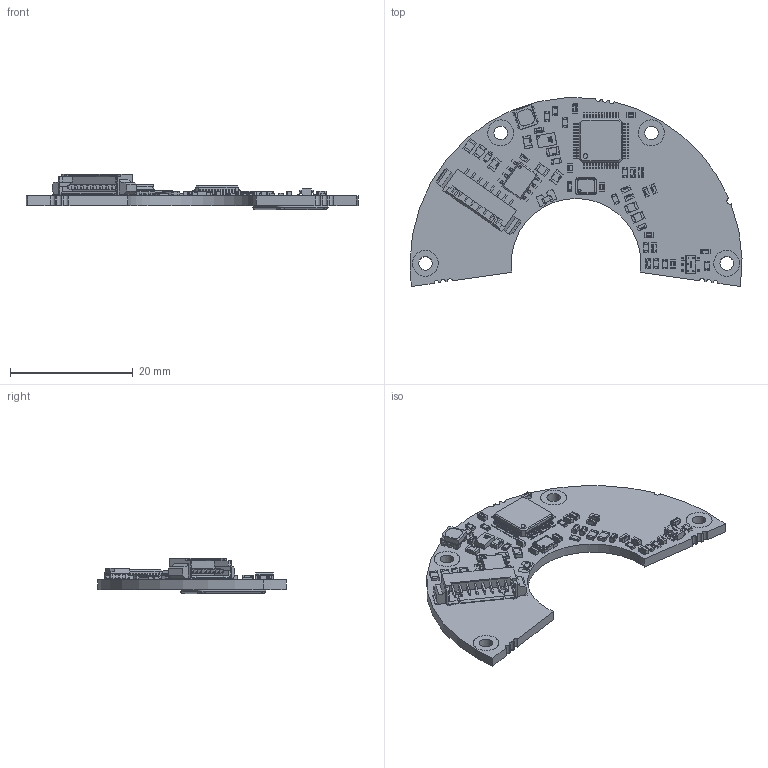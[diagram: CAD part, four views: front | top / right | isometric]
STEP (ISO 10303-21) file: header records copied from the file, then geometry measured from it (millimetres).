
FILE_DESCRIPTION (( 'STEP AP214' ), '1' );
FILE_NAME ('MB039-E_2.STEP', '2019-07-23T13:44:21', ( '' ), ( '' ), 'SwSTEP 2.0', 'SolidWorks 2016', '' );
FILE_SCHEMA (( 'AUTOMOTIVE_DESIGN' ));
Length unit declared in the file: millimetre
Products named in the file (1): MB039-E_2
Bounding box: 53.99 x 30.72 x 5.7 mm (x, y, z)
Volume: 1992 mm3; surface area: 3693.5 mm2
Topology: 118 solids, 118 shells, 4177 faces, 11479 edges, 7632 vertices
Faces by surface type: plane 2863, cylinder 860, bspline 454
Entity records: 157880 total; most frequent: CARTESIAN_POINT 49570, ORIENTED_EDGE 22590, DIRECTION 17725, EDGE_CURVE 11295, VECTOR 7697, LINE 7697, VERTEX_POINT 7632, AXIS2_PLACEMENT_3D 5014
